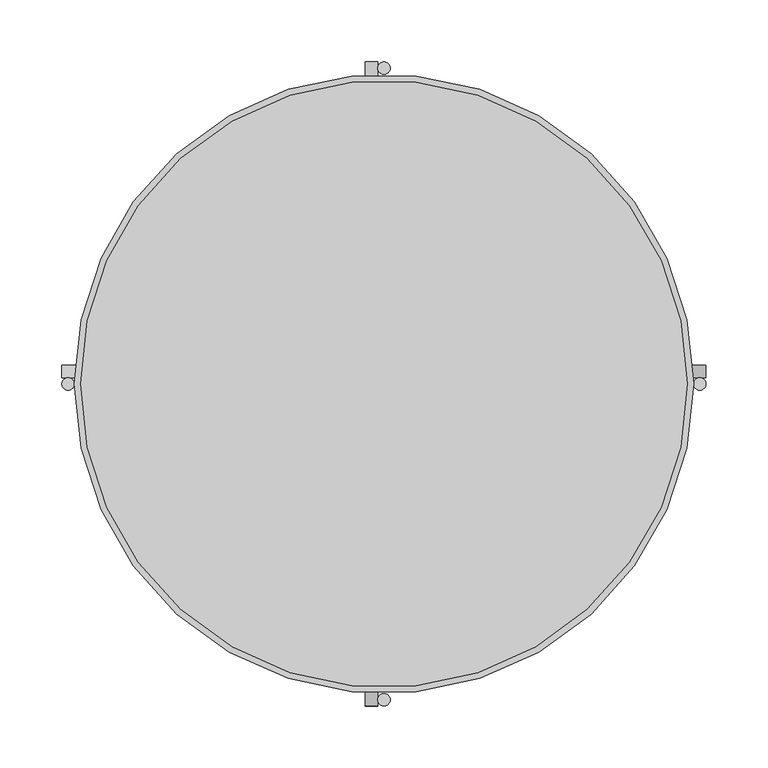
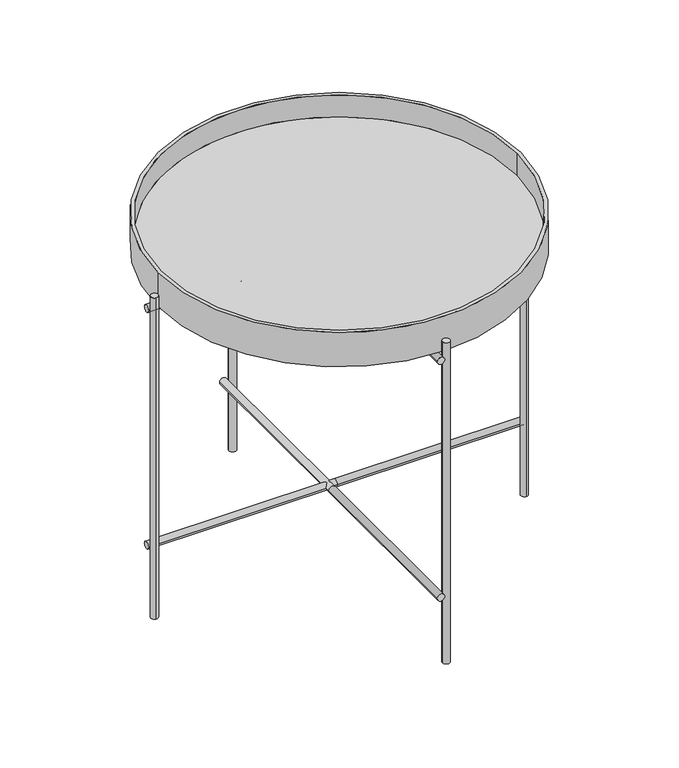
"""IFC4 building model written with IfcOpenShell, lengths in millimetres: furniture geometry, Mobiliário_Mobiliário de Escritório_Mesa de Centro e Apoio Lateral HOS08_Marelli : Mobiliário_Mobiliário de Escritório_Mesa de Centro e Apoio Lateral HOS08_Marelli."""

from ifc_helpers import new_model, si_unit, point, frame, frame_2d, origin, origin_with_axes, place, context, project, spatial, polyline, circle_curve, trimmed, segment, composite_curve, outline, extrude, source, transform, mapped, element, save
from ifc_brep_helpers import plane_surface, cylinder_surface, revolved_surface, advanced_brep


def furniture_7c72b268(model_context):
    return source(origin(), model_context, "Body", "SolidModel", [
        extrude(outline(composite_curve([segment(trimmed(circle_curve(frame_2d((0.0, 255.0)), 5.0), [point((-5.0, 255.0))], [point((5.0, 255.0))], False, "CARTESIAN"), True, "CONTINUOUS"), segment(trimmed(circle_curve(frame_2d((0.0, 255.0)), 5.0), [point((5.0, 255.0))], [point((-5.0, 255.0))], False, "CARTESIAN"), True, "CONTINUOUS")], self_intersect=False)), origin_with_axes(), (0.0, 0.0, 1.0), 468.0),
        extrude(outline(composite_curve([segment(trimmed(circle_curve(frame_2d((0.0, -255.0)), 5.0), [point((-5.0, -255.0))], [point((5.0, -255.0))], False, "CARTESIAN"), True, "CONTINUOUS"), segment(trimmed(circle_curve(frame_2d((0.0, -255.0)), 5.0), [point((5.0, -255.0))], [point((-5.0, -255.0))], False, "CARTESIAN"), True, "CONTINUOUS")], self_intersect=False)), origin_with_axes(), (0.0, 0.0, 1.0), 468.0),
        extrude(outline(composite_curve([segment(trimmed(circle_curve(frame_2d((255.0, 0.0)), 5.0), [point((255.0, -5.0))], [point((255.0, 5.0))], False, "CARTESIAN"), True, "CONTINUOUS"), segment(trimmed(circle_curve(frame_2d((255.0, 0.0)), 5.0), [point((255.0, 5.0))], [point((255.0, -5.0))], False, "CARTESIAN"), True, "CONTINUOUS")], self_intersect=False)), origin_with_axes(), (0.0, 0.0, 1.0), 468.0),
        extrude(outline(composite_curve([segment(trimmed(circle_curve(frame_2d((-255.0, 0.0)), 5.0), [point((-255.0, -5.0))], [point((-255.0, 5.0))], False, "CARTESIAN"), True, "CONTINUOUS"), segment(trimmed(circle_curve(frame_2d((-255.0, 0.0)), 5.0), [point((-255.0, 5.0))], [point((-255.0, -5.0))], False, "CARTESIAN"), True, "CONTINUOUS")], self_intersect=False)), origin_with_axes(), (0.0, 0.0, 1.0), 468.0),
        advanced_brep(
        [(-250.0, 0.0, 500.0), (250.0, 0.0, 500.0), (245.0, 0.0, 500.0), (-245.0, 0.0, 500.0), (-250.0, 0.0, 450.0), (250.0, 0.0, 450.0), (-245.0, 0.0, 468.0), (245.0, 0.0, 468.0)],
        [
            (0, 1, circle_curve(frame((0.0, 0.0, 500.0), z_axis=(0.0, 0.0, 1.0), x_axis=(1.0, 0.0, 0.0)), 250.0)),
            (1, 0, circle_curve(frame((0.0, 0.0, 500.0), z_axis=(0.0, 0.0, 1.0), x_axis=(1.0, 0.0, 0.0)), 250.0)),
            (2, 3, circle_curve(frame((0.0, 0.0, 500.0), z_axis=(0.0, 0.0, -1.0), x_axis=(1.0, 0.0, 0.0)), 245.0)),
            (3, 2, circle_curve(frame((0.0, 0.0, 500.0), z_axis=(0.0, 0.0, -1.0), x_axis=(1.0, 0.0, 0.0)), 245.0)),
            (4, 5, circle_curve(frame((0.0, 0.0, 450.0), z_axis=(0.0, 0.0, -1.0), x_axis=(1.0, 0.0, 0.0)), 250.0)),
            (5, 4, circle_curve(frame((0.0, 0.0, 450.0), z_axis=(0.0, 0.0, -1.0), x_axis=(1.0, 0.0, 0.0)), 250.0)),
            (0, 4),
            (5, 1),
            (6, 7, circle_curve(frame((0.0, 0.0, 468.0), z_axis=(0.0, 0.0, 1.0), x_axis=(1.0, 0.0, 0.0)), 245.0)),
            (7, 6, circle_curve(frame((0.0, 0.0, 468.0), z_axis=(0.0, 0.0, 1.0), x_axis=(1.0, 0.0, 0.0)), 245.0)),
            (6, 3),
            (2, 7),
        ],
        [
            plane_surface(frame((250.0, 0.0, 500.0), z_axis=(0.0, 0.0, 1.0), x_axis=(0.0, 1.0, 0.0))),
            plane_surface(frame((250.0, 0.0, 450.0), z_axis=(0.0, 0.0, -1.0), x_axis=(0.0, -1.0, 0.0))),
            cylinder_surface(frame((0.0, 0.0, 450.0), z_axis=(0.0, 0.0, 1.0), x_axis=(1.0, 0.0, 0.0)), 250.0),
            plane_surface(frame((245.0, 0.0, 468.0), z_axis=(0.0, 0.0, 1.0), x_axis=(0.0, -1.0, 0.0))),
            revolved_surface(polyline([(245.0, 0.0, 500.0), (245.0, 0.0, 468.0)]), (0.0, 0.0, 468.0), (0.0, 0.0, 1.0)),
        ],
        [
            (0, [[1, 2], [3, 4]]),
            (1, [[5, 6]]),
            (2, [[-1, 7, -6, 8]]),
            (2, [[-2, -8, -5, -7]]),
            (3, [[9, 10]]),
            (4, [[-9, 11, -3, 12]]),
            (4, [[-10, -12, -4, -11]]),
        ],
    ),
        advanced_brep(
        [(-15.0, 260.0, 100.0), (-5.0, 260.0, 100.0), (-5.0, 0.0, 100.0), (-15.0, 0.0, 100.0), (-15.0, -260.0, 100.0), (-5.0, -260.0, 100.0)],
        [
            (0, 1, circle_curve(frame((-10.0, 260.0, 100.0), z_axis=(0.0, 1.0, 0.0), x_axis=(1.0, 0.0, 0.0)), 5.0)),
            (1, 0, circle_curve(frame((-10.0, 260.0, 100.0), z_axis=(0.0, 1.0, 0.0), x_axis=(1.0, 0.0, 0.0)), 5.0)),
            (1, 2),
            (2, 3, circle_curve(frame((-10.0, 0.0, 100.0), z_axis=(0.0, 1.0, 0.0), x_axis=(1.0, 0.0, 0.0)), 5.0)),
            (3, 0),
            (3, 2, circle_curve(frame((-10.0, 0.0, 100.0), z_axis=(0.0, 1.0, 0.0), x_axis=(1.0, 0.0, 0.0)), 5.0)),
            (4, 5, circle_curve(frame((-10.0, -260.0, 100.0), z_axis=(0.0, -1.0, 0.0), x_axis=(1.0, 0.0, 0.0)), 5.0)),
            (5, 4, circle_curve(frame((-10.0, -260.0, 100.0), z_axis=(0.0, -1.0, 0.0), x_axis=(1.0, 0.0, 0.0)), 5.0)),
            (4, 3),
            (2, 5),
        ],
        [
            plane_surface(frame((-5.0, 260.0, 100.0), z_axis=(0.0, 1.0, 0.0), x_axis=(0.0, 0.0, -1.0))),
            cylinder_surface(frame((-10.0, 260.0, 100.0), z_axis=(0.0, -1.0, 0.0), x_axis=(1.0, 0.0, 0.0)), 5.0),
            plane_surface(frame((-5.0, -260.0, 100.0), z_axis=(0.0, -1.0, 0.0), x_axis=(0.0, 0.0, 1.0))),
            cylinder_surface(frame((-10.0, -260.0, 100.0), z_axis=(0.0, 1.0, 0.0), x_axis=(1.0, 0.0, 0.0)), 5.0),
        ],
        [
            (0, [[1, 2]]),
            (1, [[-2, 3, 4, 5]]),
            (1, [[-1, -5, 6, -3]]),
            (2, [[7, 8]]),
            (3, [[-7, 9, -4, 10]]),
            (3, [[-8, -10, -6, -9]]),
        ],
    ),
        advanced_brep(
        [(-260.0, 5.0, 100.0), (-260.0, 15.0, 100.0), (0.0, 15.0, 100.0), (0.0, 5.0, 100.0), (260.0, 5.0, 100.0), (260.0, 15.0, 100.0)],
        [
            (0, 1, circle_curve(frame((-260.0, 10.0, 100.0), z_axis=(-1.0, 0.0, 0.0), x_axis=(0.0, 1.0, 0.0)), 5.0)),
            (1, 0, circle_curve(frame((-260.0, 10.0, 100.0), z_axis=(-1.0, 0.0, 0.0), x_axis=(0.0, 1.0, 0.0)), 5.0)),
            (1, 2),
            (2, 3, circle_curve(frame((0.0, 10.0, 100.0), z_axis=(-1.0, 0.0, 0.0), x_axis=(0.0, 1.0, 0.0)), 5.0)),
            (3, 0),
            (3, 2, circle_curve(frame((0.0, 10.0, 100.0), z_axis=(-1.0, 0.0, 0.0), x_axis=(0.0, 1.0, 0.0)), 5.0)),
            (4, 5, circle_curve(frame((260.0, 10.0, 100.0), z_axis=(1.0, 0.0, 0.0), x_axis=(0.0, 1.0, 0.0)), 5.0)),
            (5, 4, circle_curve(frame((260.0, 10.0, 100.0), z_axis=(1.0, 0.0, 0.0), x_axis=(0.0, 1.0, 0.0)), 5.0)),
            (4, 3),
            (2, 5),
        ],
        [
            plane_surface(frame((-260.0, 15.0, 100.0), z_axis=(-1.0, 0.0, 0.0), x_axis=(0.0, 0.0, -1.0))),
            cylinder_surface(frame((-260.0, 10.0, 100.0), z_axis=(1.0, 0.0, 0.0), x_axis=(0.0, 1.0, 0.0)), 5.0),
            plane_surface(frame((260.0, 15.0, 100.0), z_axis=(1.0, 0.0, 0.0), x_axis=(0.0, 0.0, 1.0))),
            cylinder_surface(frame((260.0, 10.0, 100.0), z_axis=(-1.0, 0.0, 0.0), x_axis=(0.0, 1.0, 0.0)), 5.0),
        ],
        [
            (0, [[1, 2]]),
            (1, [[-2, 3, 4, 5]]),
            (1, [[-1, -5, 6, -3]]),
            (2, [[7, 8]]),
            (3, [[-7, 9, -4, 10]]),
            (3, [[-8, -10, -6, -9]]),
        ],
    ),
        extrude(outline(composite_curve([segment(trimmed(circle_curve(frame_2d((445.0, -10.0)), 5.0), [point((445.0, -15.0))], [point((445.0, -5.0))], False, "CARTESIAN"), True, "CONTINUOUS"), segment(trimmed(circle_curve(frame_2d((445.0, -10.0)), 5.0), [point((445.0, -5.0))], [point((445.0, -15.0))], False, "CARTESIAN"), True, "CONTINUOUS")], self_intersect=False)), frame((0.0, -260.0, 0.0), z_axis=(0.0, 1.0, 0.0), x_axis=(0.0, 0.0, 1.0)), (0.0, 0.0, 1.0), 130.0),
        extrude(outline(composite_curve([segment(trimmed(circle_curve(frame_2d((445.0, -10.0)), 5.0), [point((445.0, -15.0))], [point((445.0, -5.0))], False, "CARTESIAN"), True, "CONTINUOUS"), segment(trimmed(circle_curve(frame_2d((445.0, -10.0)), 5.0), [point((445.0, -5.0))], [point((445.0, -15.0))], False, "CARTESIAN"), True, "CONTINUOUS")], self_intersect=False)), frame((0.0, 130.0, 0.0), z_axis=(0.0, 1.0, 0.0), x_axis=(0.0, 0.0, 1.0)), (0.0, 0.0, 1.0), 130.0),
        extrude(outline(composite_curve([segment(trimmed(circle_curve(frame_2d((10.0, 445.0)), 5.0), [point((5.0, 445.0))], [point((15.0, 445.0))], False, "CARTESIAN"), True, "CONTINUOUS"), segment(trimmed(circle_curve(frame_2d((10.0, 445.0)), 5.0), [point((15.0, 445.0))], [point((5.0, 445.0))], False, "CARTESIAN"), True, "CONTINUOUS")], self_intersect=False)), frame((-260.0, 0.0, 0.0), z_axis=(1.0, 0.0, 0.0), x_axis=(0.0, 1.0, 0.0)), (0.0, 0.0, 1.0), 130.0),
        extrude(outline(composite_curve([segment(trimmed(circle_curve(frame_2d((10.0, 445.0)), 5.0), [point((5.0, 445.0))], [point((15.0, 445.0))], False, "CARTESIAN"), True, "CONTINUOUS"), segment(trimmed(circle_curve(frame_2d((10.0, 445.0)), 5.0), [point((15.0, 445.0))], [point((5.0, 445.0))], False, "CARTESIAN"), True, "CONTINUOUS")], self_intersect=False)), frame((130.0, 0.0, 0.0), z_axis=(1.0, 0.0, 0.0), x_axis=(0.0, 1.0, 0.0)), (0.0, 0.0, 1.0), 130.0),
    ])


if __name__ == "__main__":
    model = new_model("IFC4")
    model_context = context("Model", 3, world=origin())
    ifc_project = project(units=[si_unit("LENGTHUNIT", "METRE", prefix="MILLI")], contexts=[model_context])
    site = spatial("IfcSite", under=ifc_project)
    building = spatial("IfcBuilding", under=site)
    placement = place(None, origin())
    furniture_shape = furniture_7c72b268(model_context)
    element("IfcFurniture", 1, ObjectType="Mobiliário_Mobiliário de Escritório_Mesa de Centro e Apoio Lateral HOS08_Marelli : Mobiliário_Mobiliário de Escritório_Mesa de Centro e Apoio Lateral HOS08_Marelli", at=placement, inside=building, context=model_context, shape_type="MappedRepresentation", body=[
        mapped(furniture_shape, transform((0.0, 0.0, 0.0), x_axis=(1.0, 0.0, 0.0), y_axis=(0.0, 1.0, 0.0), z_axis=(0.0, 0.0, 1.0))),
    ])
    save(model, "model.ifc")
